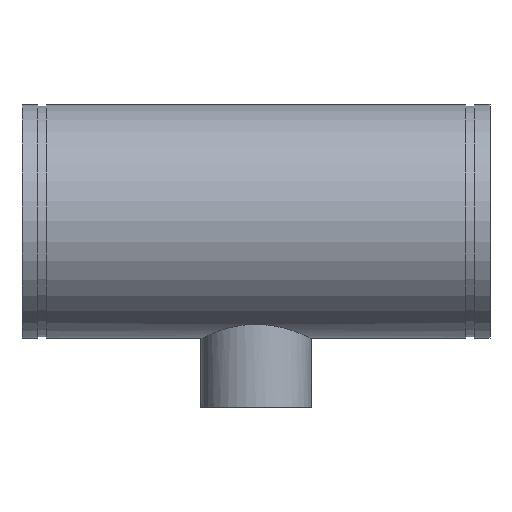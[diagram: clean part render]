
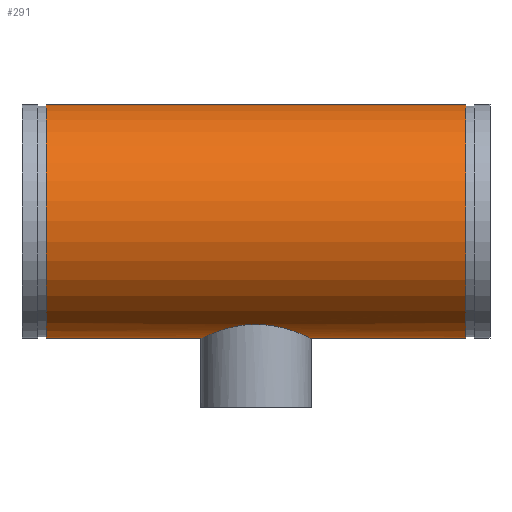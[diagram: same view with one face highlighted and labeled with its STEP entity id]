
A CAD part, top view. The second image highlights one B-rep face of the part: STEP entity #291.
In plain terms, the highlighted cylindrical face has radius 177.8 mm (diameter 355.6 mm), a full revolution.
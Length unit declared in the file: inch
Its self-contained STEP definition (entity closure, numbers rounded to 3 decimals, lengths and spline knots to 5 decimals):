
#45=B_SPLINE_CURVE_WITH_KNOTS('',3,(#511,#512,#513,#514,#515,#516,#517,
#518,#519,#520,#521,#522,#523,#524,#525,#526,#527,#528,#529,#530,#531,#532,
#533,#534,#535,#536,#537,#538,#539,#540,#541,#542,#543,#544,#545,#546,#547,
#548,#549,#550,#551,#552,#553,#554,#555,#556,#557,#558,#559,#560),
 .UNSPECIFIED.,.F.,.F.,(4,2,2,2,2,2,2,2,2,2,2,2,2,2,2,2,2,2,2,2,2,2,2,2,
4),(0.,1.61496,3.22993,4.84489,6.45986,
8.07139,9.68293,11.29446,12.906,14.51753,
16.12907,17.7406,19.35214,20.9671,22.58207,
24.19703,25.812,27.42696,29.04193,30.65689,
32.27186,33.88339,35.49493,37.10646,38.718),
 .UNSPECIFIED.);
#46=B_SPLINE_CURVE_WITH_KNOTS('',3,(#561,#562,#563,#564,#565,#566,#567,
#568,#569,#570,#571,#572,#573,#574,#575,#576,#577,#578),.UNSPECIFIED.,.F.,
 .F.,(4,2,2,2,2,2,2,2,4),(38.718,40.32953,41.94107,
43.5526,45.16414,46.7791,48.39407,50.00903,
51.624),.UNSPECIFIED.);
#51=LINE('',#508,#59);
#59=VECTOR('',#410,7.);
#67=CYLINDRICAL_SURFACE('',#338,7.);
#77=FACE_BOUND('',#108,.T.);
#88=FACE_OUTER_BOUND('',#107,.T.);
#107=EDGE_LOOP('',(#221,#222,#223,#224));
#108=EDGE_LOOP('',(#225,#226));
#121=CIRCLE('',#321,7.);
#132=CIRCLE('',#337,7.);
#141=VERTEX_POINT('',#476);
#152=VERTEX_POINT('',#505);
#153=VERTEX_POINT('',#509);
#154=VERTEX_POINT('',#510);
#165=EDGE_CURVE('',#141,#141,#121,.T.);
#178=EDGE_CURVE('',#152,#152,#132,.T.);
#179=EDGE_CURVE('',#152,#141,#51,.T.);
#180=EDGE_CURVE('',#153,#154,#45,.T.);
#181=EDGE_CURVE('',#154,#153,#46,.T.);
#221=ORIENTED_EDGE('',*,*,#178,.T.);
#222=ORIENTED_EDGE('',*,*,#179,.T.);
#223=ORIENTED_EDGE('',*,*,#165,.T.);
#224=ORIENTED_EDGE('',*,*,#179,.F.);
#225=ORIENTED_EDGE('',*,*,#180,.F.);
#226=ORIENTED_EDGE('',*,*,#181,.F.);
#291=ADVANCED_FACE('',(#88,#77),#67,.T.);
#321=AXIS2_PLACEMENT_3D('',#477,#372,#373);
#337=AXIS2_PLACEMENT_3D('',#506,#406,#407);
#338=AXIS2_PLACEMENT_3D('',#507,#408,#409);
#372=DIRECTION('center_axis',(-1.,0.,0.));
#373=DIRECTION('ref_axis',(0.,-1.,0.));
#406=DIRECTION('center_axis',(1.,0.,0.));
#407=DIRECTION('ref_axis',(0.,-1.,0.));
#408=DIRECTION('center_axis',(-1.,0.,0.));
#409=DIRECTION('ref_axis',(0.,-1.,0.));
#410=DIRECTION('',(1.,0.,0.));
#476=CARTESIAN_POINT('',(12.562,7.,0.));
#477=CARTESIAN_POINT('Origin',(12.562,0.,0.));
#505=CARTESIAN_POINT('',(-12.562,7.,0.));
#506=CARTESIAN_POINT('Origin',(-12.562,0.,0.));
#507=CARTESIAN_POINT('Origin',(14.,0.,0.));
#508=CARTESIAN_POINT('',(14.,7.,0.));
#509=CARTESIAN_POINT('',(0.,-6.16663,-3.3125));
#510=CARTESIAN_POINT('',(-3.3125,-7.,0.));
#511=CARTESIAN_POINT('Ctrl Pts',(0.,-6.16663,-3.3125));
#512=CARTESIAN_POINT('Ctrl Pts',(0.21194,-6.16663,-3.3125));
#513=CARTESIAN_POINT('Ctrl Pts',(0.42976,-6.17787,-3.29184));
#514=CARTESIAN_POINT('Ctrl Pts',(0.86059,-6.2227,-3.20629));
#515=CARTESIAN_POINT('Ctrl Pts',(1.07361,-6.25622,-3.14143));
#516=CARTESIAN_POINT('Ctrl Pts',(1.48035,-6.3387,-2.9715));
#517=CARTESIAN_POINT('Ctrl Pts',(1.67445,-6.38762,-2.86628));
#518=CARTESIAN_POINT('Ctrl Pts',(2.03274,-6.49076,-2.62437));
#519=CARTESIAN_POINT('Ctrl Pts',(2.19694,-6.54488,-2.48764));
#520=CARTESIAN_POINT('Ctrl Pts',(2.48733,-6.64799,-2.19725));
#521=CARTESIAN_POINT('Ctrl Pts',(2.62402,-6.70079,-2.0332));
#522=CARTESIAN_POINT('Ctrl Pts',(2.86606,-6.79922,-1.67485));
#523=CARTESIAN_POINT('Ctrl Pts',(2.97143,-6.84477,-1.48052));
#524=CARTESIAN_POINT('Ctrl Pts',(3.14155,-6.92032,-1.07333));
#525=CARTESIAN_POINT('Ctrl Pts',(3.20643,-6.95033,-0.86008));
#526=CARTESIAN_POINT('Ctrl Pts',(3.29192,-6.99018,-0.42916));
#527=CARTESIAN_POINT('Ctrl Pts',(3.3125,-7.,-0.21149));
#528=CARTESIAN_POINT('Ctrl Pts',(3.3125,-7.,0.21149));
#529=CARTESIAN_POINT('Ctrl Pts',(3.29192,-6.99018,0.42916));
#530=CARTESIAN_POINT('Ctrl Pts',(3.20643,-6.95033,0.86008));
#531=CARTESIAN_POINT('Ctrl Pts',(3.14155,-6.92032,1.07333));
#532=CARTESIAN_POINT('Ctrl Pts',(2.97143,-6.84477,1.48052));
#533=CARTESIAN_POINT('Ctrl Pts',(2.86606,-6.79922,1.67485));
#534=CARTESIAN_POINT('Ctrl Pts',(2.62402,-6.70079,2.0332));
#535=CARTESIAN_POINT('Ctrl Pts',(2.48733,-6.64799,2.19725));
#536=CARTESIAN_POINT('Ctrl Pts',(2.19694,-6.54488,2.48764));
#537=CARTESIAN_POINT('Ctrl Pts',(2.03274,-6.49076,2.62437));
#538=CARTESIAN_POINT('Ctrl Pts',(1.67445,-6.38762,2.86628));
#539=CARTESIAN_POINT('Ctrl Pts',(1.48035,-6.3387,2.9715));
#540=CARTESIAN_POINT('Ctrl Pts',(1.07361,-6.25622,3.14143));
#541=CARTESIAN_POINT('Ctrl Pts',(0.86059,-6.2227,3.20629));
#542=CARTESIAN_POINT('Ctrl Pts',(0.42976,-6.17787,3.29184));
#543=CARTESIAN_POINT('Ctrl Pts',(0.21194,-6.16663,3.3125));
#544=CARTESIAN_POINT('Ctrl Pts',(-0.21194,-6.16663,3.3125));
#545=CARTESIAN_POINT('Ctrl Pts',(-0.42976,-6.17787,3.29184));
#546=CARTESIAN_POINT('Ctrl Pts',(-0.86059,-6.2227,3.20629));
#547=CARTESIAN_POINT('Ctrl Pts',(-1.07361,-6.25622,3.14143));
#548=CARTESIAN_POINT('Ctrl Pts',(-1.48035,-6.3387,2.9715));
#549=CARTESIAN_POINT('Ctrl Pts',(-1.67445,-6.38762,2.86628));
#550=CARTESIAN_POINT('Ctrl Pts',(-2.03274,-6.49076,2.62437));
#551=CARTESIAN_POINT('Ctrl Pts',(-2.19694,-6.54488,2.48764));
#552=CARTESIAN_POINT('Ctrl Pts',(-2.48733,-6.64799,2.19725));
#553=CARTESIAN_POINT('Ctrl Pts',(-2.62402,-6.70079,2.0332));
#554=CARTESIAN_POINT('Ctrl Pts',(-2.86606,-6.79922,1.67485));
#555=CARTESIAN_POINT('Ctrl Pts',(-2.97143,-6.84477,1.48052));
#556=CARTESIAN_POINT('Ctrl Pts',(-3.14155,-6.92032,1.07333));
#557=CARTESIAN_POINT('Ctrl Pts',(-3.20643,-6.95033,0.86008));
#558=CARTESIAN_POINT('Ctrl Pts',(-3.29192,-6.99018,0.42916));
#559=CARTESIAN_POINT('Ctrl Pts',(-3.3125,-7.,0.21149));
#560=CARTESIAN_POINT('Ctrl Pts',(-3.3125,-7.,0.));
#561=CARTESIAN_POINT('Ctrl Pts',(-3.3125,-7.,0.));
#562=CARTESIAN_POINT('Ctrl Pts',(-3.3125,-7.,-0.21149));
#563=CARTESIAN_POINT('Ctrl Pts',(-3.29192,-6.99018,-0.42916));
#564=CARTESIAN_POINT('Ctrl Pts',(-3.20643,-6.95033,-0.86008));
#565=CARTESIAN_POINT('Ctrl Pts',(-3.14155,-6.92032,-1.07333));
#566=CARTESIAN_POINT('Ctrl Pts',(-2.97143,-6.84477,-1.48052));
#567=CARTESIAN_POINT('Ctrl Pts',(-2.86606,-6.79922,-1.67485));
#568=CARTESIAN_POINT('Ctrl Pts',(-2.62402,-6.70079,-2.0332));
#569=CARTESIAN_POINT('Ctrl Pts',(-2.48733,-6.64799,-2.19725));
#570=CARTESIAN_POINT('Ctrl Pts',(-2.19694,-6.54488,-2.48764));
#571=CARTESIAN_POINT('Ctrl Pts',(-2.03274,-6.49076,-2.62437));
#572=CARTESIAN_POINT('Ctrl Pts',(-1.67445,-6.38762,-2.86628));
#573=CARTESIAN_POINT('Ctrl Pts',(-1.48035,-6.3387,-2.9715));
#574=CARTESIAN_POINT('Ctrl Pts',(-1.07361,-6.25622,-3.14143));
#575=CARTESIAN_POINT('Ctrl Pts',(-0.86059,-6.2227,-3.20629));
#576=CARTESIAN_POINT('Ctrl Pts',(-0.42976,-6.17787,-3.29184));
#577=CARTESIAN_POINT('Ctrl Pts',(-0.21194,-6.16663,-3.3125));
#578=CARTESIAN_POINT('Ctrl Pts',(0.,-6.16663,
-3.3125));
